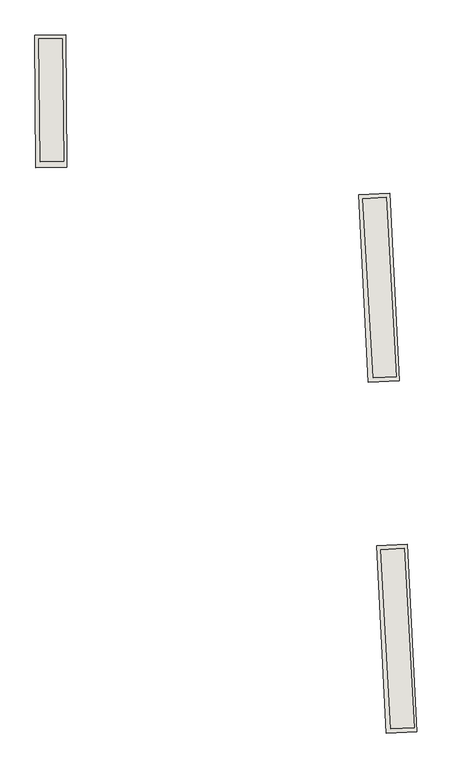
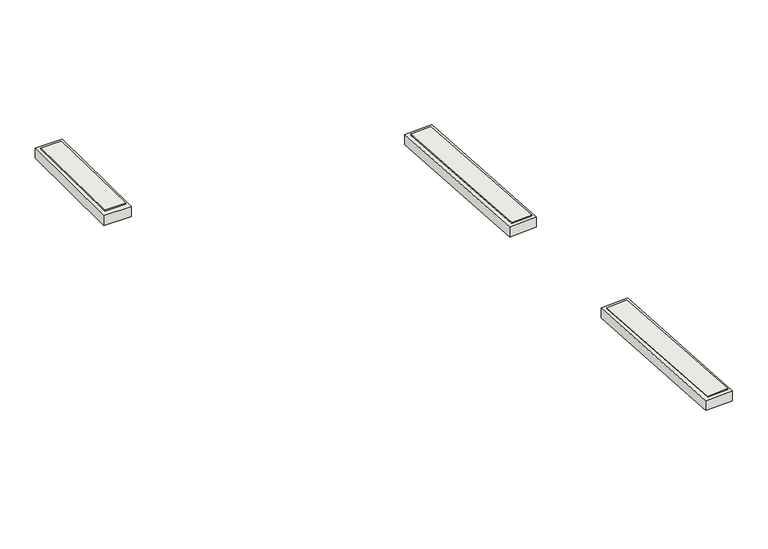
"""IFC4 building model written with IfcOpenShell, lengths in millimetres: wall geometry, goldan2 : goldan2."""

from ifc_helpers import new_model, si_unit, frame, origin, place, context, project, spatial, polyline, outline, extrude, faceted_brep, source, transform, mapped, element, save


def wall_ab537ee6(model_context):
    return source(origin(), model_context, "Body", "SolidModel", [
        extrude(outline(polyline([(3489.9835817, 13138.0314884), (3525.2166886, 9995.393821), (2925.2543931, 9988.6674536), (2890.0212862, 13131.3051209), (3489.9835817, 13138.0314884)])), frame((0.0, 0.0, 25600.0), z_axis=(0.0, 0.0, 1.0), x_axis=(1.0, 0.0, 0.0)), (0.0, 0.0, 1.0), 230.0),
        extrude(outline(polyline([(3576.398502, 13234.7924474), (3596.3464704, 9842.3697947), (2805.8715334, 9837.7216801), (2785.9235649, 13230.1443329), (3576.398502, 13234.7924474)])), frame((0.0, 0.0, 25500.0), z_axis=(0.0, 0.0, 1.0), x_axis=(1.0, 0.0, 0.0)), (0.0, 0.0, 1.0), 300.0),
        extrude(outline(polyline([(11781.6276673, 9079.5258801), (12039.8686099, 4488.3232394), (11440.8154781, 4454.6283543), (11182.5745355, 9045.830995), (11781.6276673, 9079.5258801)])), frame((0.0, 0.0, 25600.0), z_axis=(0.0, 0.0, 1.0), x_axis=(1.0, 0.0, 0.0)), (0.0, 0.0, 1.0), 230.0),
        extrude(outline(polyline([(11863.6046608, 9180.0743469), (12107.612761, 4386.2804374), (11318.1462091, 4346.0959328), (11074.1381089, 9139.8898423), (11863.6046608, 9180.0743469)])), frame((0.0, 0.0, 25500.0), z_axis=(0.0, 0.0, 1.0), x_axis=(1.0, 0.0, 0.0)), (0.0, 0.0, 1.0), 300.0),
        extrude(outline(polyline([(12241.0515195, 95.3285265), (12499.2924621, -4495.8741141), (11900.2393303, -4529.5689992), (11641.9983877, 61.6336414), (12241.0515195, 95.3285265)])), frame((0.0, 0.0, 25600.0), z_axis=(0.0, 0.0, 1.0), x_axis=(1.0, 0.0, 0.0)), (0.0, 0.0, 1.0), 230.0),
        faceted_brep([(12323.0285129, 195.8769934, 25800.0), (11533.561961, 155.6924887, 25800.0), (11777.5700613, -4638.1014208, 25800.0), (12567.0366132, -4597.9169161, 25800.0), (11641.9983877, 61.6336414, 25800.0), (12241.0515195, 95.3285265, 25800.0), (12499.2924621, -4495.8741141, 25800.0), (11900.2393303, -4529.5689992, 25800.0), (12323.0285129, 195.8769934, 25500.0), (12567.0366132, -4597.9169161, 25500.0), (11777.5700613, -4638.1014208, 25500.0), (11533.561961, 155.6924887, 25500.0), (12241.0515195, 95.3285265, 25600.0), (11641.9983877, 61.6336414, 25600.0), (11900.2393303, -4529.5689992, 25600.0), (12499.2924621, -4495.8741141, 25600.0)], [[[0, 1, 2, 3], [4, 5, 6, 7]], [[8, 9, 10, 11]], [[1, 0, 8, 11]], [[2, 1, 11, 10]], [[3, 2, 10, 9]], [[0, 3, 9, 8]], [[12, 13, 14, 15]], [[13, 12, 5, 4]], [[14, 13, 4, 7]], [[15, 14, 7, 6]], [[12, 15, 6, 5]]]),
    ])


if __name__ == "__main__":
    model = new_model("IFC4")
    model_context = context("Model", 3, world=origin())
    ifc_project = project(units=[si_unit("LENGTHUNIT", "METRE", prefix="MILLI")], contexts=[model_context])
    site = spatial("IfcSite", under=ifc_project)
    building = spatial("IfcBuilding", under=site)
    placement = place(None, origin())
    wall_shape = wall_ab537ee6(model_context)
    element("IfcWall", 1, ObjectType="goldan2 : goldan2", at=placement, inside=building, context=model_context, shape_type="MappedRepresentation", body=[
        mapped(wall_shape, transform((0.0, 0.0, 0.0), x_axis=(1.0, 0.0, 0.0), y_axis=(0.0, 1.0, 0.0), z_axis=(0.0, 0.0, 1.0))),
    ])
    save(model, "model.ifc")
